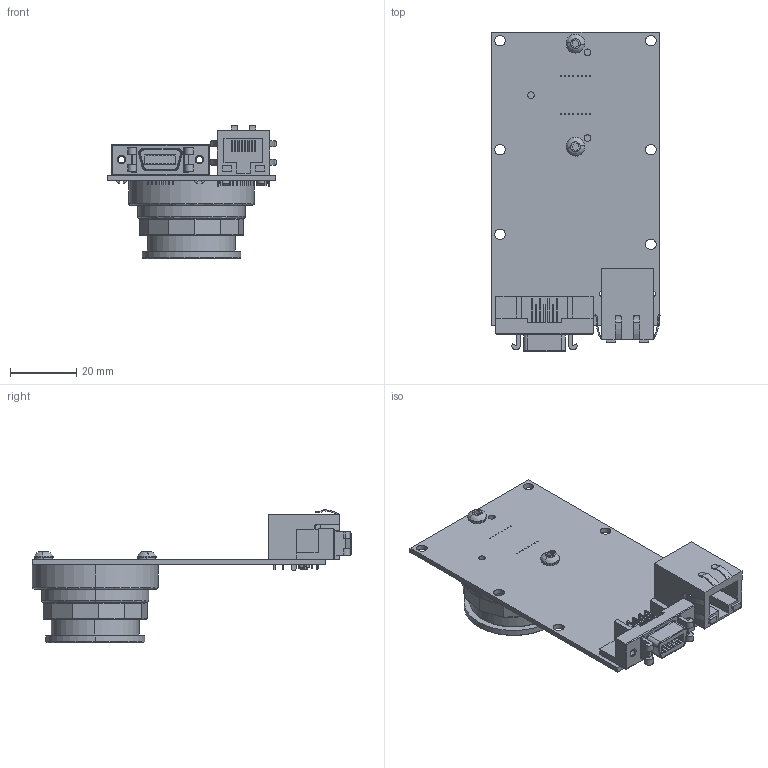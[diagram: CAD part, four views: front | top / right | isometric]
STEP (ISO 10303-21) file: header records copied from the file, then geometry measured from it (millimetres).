
FILE_DESCRIPTION (( 'STEP AP214' ), '1' );
FILE_NAME ('GB650C.STEP', '2013-07-31T22:31:24', ( '' ), ( '' ), 'SwSTEP 2.0', 'SolidWorks 2013', '' );
FILE_SCHEMA (( 'AUTOMOTIVE_DESIGN' ));
Length unit declared in the file: millimetre
Products named in the file (19): 110003AC-CV CMOUNT RING; 140008-washer spring lock #4; 220074-SONY ICX424AQ; SONY ICX424 WINDOW; SONY ICX424 BODY; 140004-LOW COST C-MOUNT CAP; 200081B-GB1380-650-LS-RA; 260039-3M 10214-55G3PC; 260036-HALO HFJ11-1G16E-L12RL; 200080B-GB1380-650-LS; 210046B-GB1380-650-LS; 140027-SCREW BUTTON M3x6 SS; GB650C; 110094A-GB CCD GASKET; 100097A-IR FILTER ASSEMBLY 0.75 INCH; 110078A-GB MOUNT; 110054AB-IR FILTER SUPPORT; 440002-IR CUT FILTER 22MM DIA; 110031A-B EC-CCD LOCKING RING
Assembly tree (20 placements, depth 4):
  GB650C
    140027-SCREW BUTTON M3x6 SS  x2
    200081B-GB1380-650-LS-RA
      200080B-GB1380-650-LS
        210046B-GB1380-650-LS
      260036-HALO HFJ11-1G16E-L12RL
      260039-3M 10214-55G3PC
    140004-LOW COST C-MOUNT CAP
    220074-SONY ICX424AQ
      SONY ICX424 BODY
      SONY ICX424 WINDOW
    140008-washer spring lock #4  x2
    110003AC-CV CMOUNT RING
    110031A-B EC-CCD LOCKING RING
    100097A-IR FILTER ASSEMBLY 0.75 INCH
      440002-IR CUT FILTER 22MM DIA
      110054AB-IR FILTER SUPPORT
    110094A-GB CCD GASKET
    110078A-GB MOUNT
Bounding box: 51.12 x 96.77 x 40.34 mm (x, y, z)
Volume: 21979.2 mm3; surface area: 30184.3 mm2
Topology: 16 solids, 16 shells, 1398 faces, 3634 edges, 2325 vertices
Faces by surface type: plane 837, cylinder 349, cone 186, bspline 26
Entity records: 58589 total; most frequent: CARTESIAN_POINT 8341, ORIENTED_EDGE 7148, DIRECTION 7133, EDGE_CURVE 3574, LINE 2611, VECTOR 2611, VERTEX_POINT 2289, AXIS2_PLACEMENT_3D 2261
